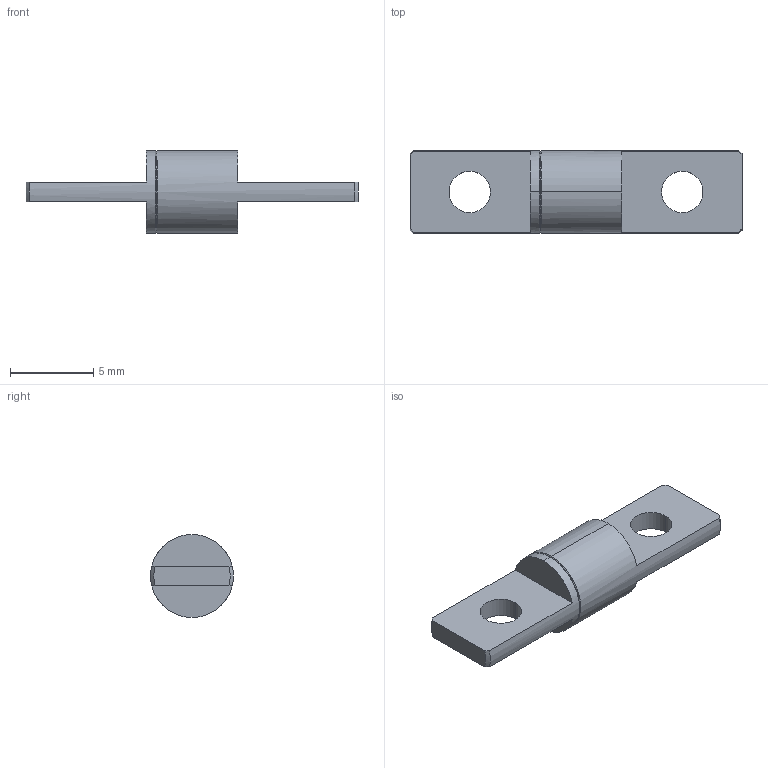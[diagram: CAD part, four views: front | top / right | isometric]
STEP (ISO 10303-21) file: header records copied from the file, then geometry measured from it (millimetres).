
FILE_DESCRIPTION (( 'STEP AP203' ), '1' );
FILE_NAME ('XG11-075-4.STEP', '2025-07-04T05:58:13', ( '微软用户' ), ( '微软中国' ), 'SwSTEP 2.0', 'SolidWorks 2024', '' );
FILE_SCHEMA (( 'CONFIG_CONTROL_DESIGN' ));
Length unit declared in the file: millimetre
Products named in the file (1): XG11-075-4
Bounding box: 20 x 5 x 5 mm (x, y, z)
Volume: 182.2 mm3; surface area: 300.9 mm2
Topology: 1 solids, 1 shells, 26 faces, 66 edges, 42 vertices
Faces by surface type: plane 10, cylinder 8, torus 4, cone 4
Entity records: 889 total; most frequent: CARTESIAN_POINT 159, DIRECTION 146, ORIENTED_EDGE 132, EDGE_CURVE 66, AXIS2_PLACEMENT_3D 61, VERTEX_POINT 42, CIRCLE 34, EDGE_LOOP 30
